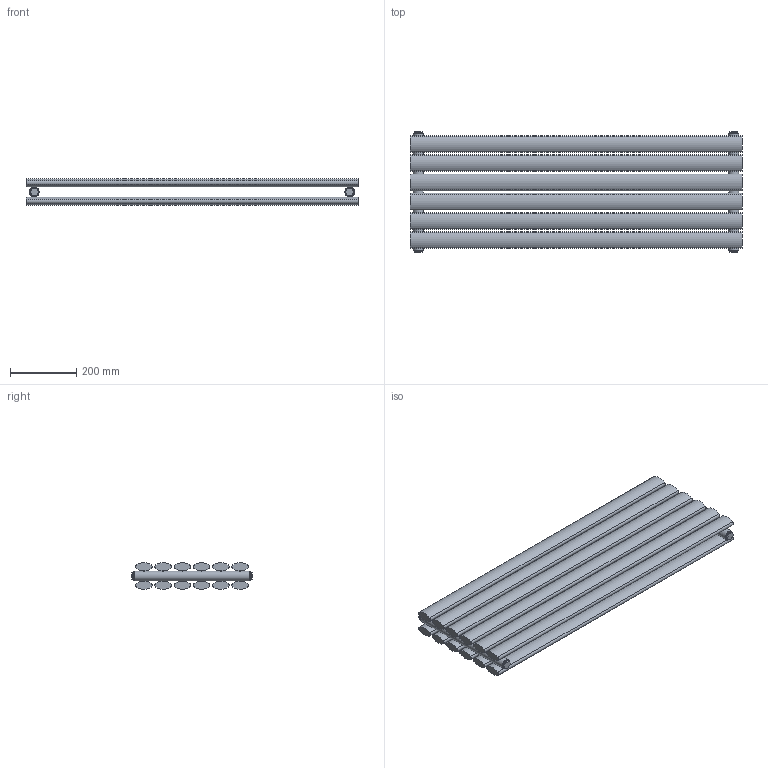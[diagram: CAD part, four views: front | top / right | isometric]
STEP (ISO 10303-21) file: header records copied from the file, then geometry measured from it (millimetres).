
FILE_DESCRIPTION(/* description */ (''),/* implementation_level */ '2;1');
FILE_NAME(/* name */ 'C:\Grzejniki\13DLUXRAD\pokojowe\FORTUNA\FORTUNA PODWÓJNA 1000x352.iam.stp',/* time_stamp */ '2016-06-28T17:31:38+02:00',/* author */ ('m.szydziak'),/* organization */ (''),/* preprocessor_version */ 'ST-DEVELOPER v16.5',/* originating_system */ 'Autodesk Inventor 2017',/* authorisation */ '');
FILE_SCHEMA (('AUTOMOTIVE_DESIGN { 1 0 10303 214 3 1 1 }'));
Length unit declared in the file: millimetre
Products named in the file (5): FORTUNA PODWÓJNA 1000x352; %%c30x1,5x352; 50x25x1,2x1000; zaślepka fi30 G0,5inch; korek
Assembly tree (22 placements, depth 2):
  FORTUNA PODWÓJNA 1000x352
    %%c30x1,5x352  x2
    50x25x1,2x1000  x12
    zaślepka fi30 G0,5inch  x4
    korek  x4
Bounding box: 1000 x 364 x 79.72 mm (x, y, z)
Volume: 11622137.5 mm3; surface area: 1603997.5 mm2
Topology: 22 solids, 22 shells, 168 faces, 400 edges, 276 vertices
Faces by surface type: plane 92, cylinder 76
Full cylindrical faces by diameter (mm): 5 x12, 18.631 x4, 24 x4, 27 x6, 30 x2
Entity records: 1679 total; most frequent: CARTESIAN_POINT 604, DIRECTION 210, ORIENTED_EDGE 150, AXIS2_PLACEMENT_3D 91, EDGE_CURVE 75, EDGE_LOOP 62, VERTEX_POINT 59, FACE_OUTER_BOUND 35
